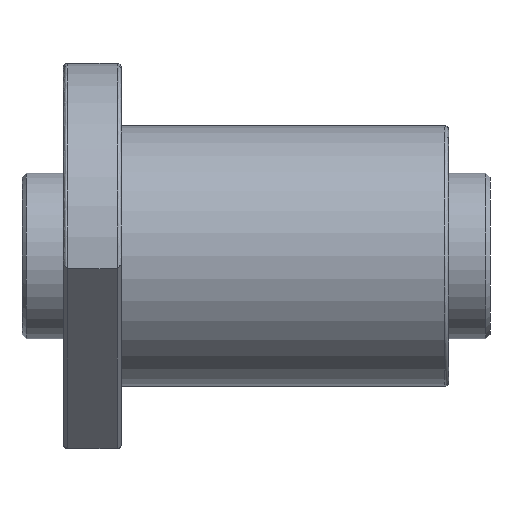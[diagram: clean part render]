
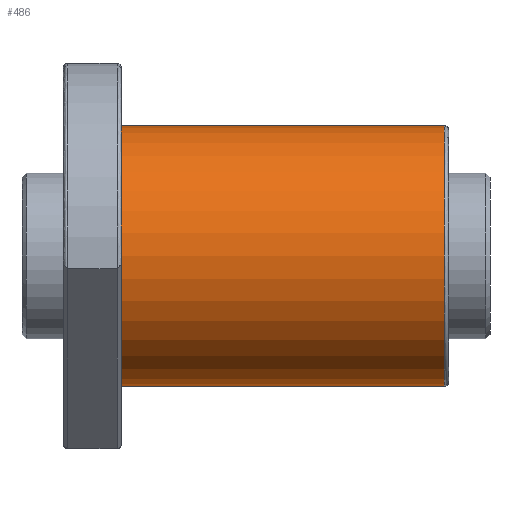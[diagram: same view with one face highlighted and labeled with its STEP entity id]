
A CAD part, front view. The second image highlights one B-rep face of the part: STEP entity #486.
In plain terms, the highlighted cylindrical face has radius 31.5 mm (diameter 63 mm), a partial arc.
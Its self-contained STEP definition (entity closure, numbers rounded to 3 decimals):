
#67 = DIRECTION ( 'NONE',  ( -1., 0., 0. ) ) ;
#377 = AXIS2_PLACEMENT_3D ( 'NONE', #2147, #4567, #2974 ) ;
#406 = CARTESIAN_POINT ( 'NONE',  ( 93., 0., 31.5 ) ) ;
#486 = ADVANCED_FACE ( 'NONE', ( #2227 ), #4011, .T. ) ;
#510 = CARTESIAN_POINT ( 'NONE',  ( 92., 0., 31.5 ) ) ;
#531 = CARTESIAN_POINT ( 'NONE',  ( 93., 0., -31.5 ) ) ;
#644 = LINE ( 'NONE', #531, #1081 ) ;
#787 = VERTEX_POINT ( 'NONE', #4253 ) ;
#1081 = VECTOR ( 'NONE', #2909, 1000. ) ;
#1314 = VERTEX_POINT ( 'NONE', #510 ) ;
#1739 = CARTESIAN_POINT ( 'NONE',  ( 14., 0., 31.5 ) ) ;
#1937 = CIRCLE ( 'NONE', #2277, 31.5 ) ;
#2147 = CARTESIAN_POINT ( 'NONE',  ( 93., 0., 0. ) ) ;
#2227 = FACE_OUTER_BOUND ( 'NONE', #5256, .T. ) ;
#2234 = VERTEX_POINT ( 'NONE', #4854 ) ;
#2277 = AXIS2_PLACEMENT_3D ( 'NONE', #3616, #3974, #3189 ) ;
#2806 = ORIENTED_EDGE ( 'NONE', *, *, #4436, .T. ) ;
#2909 = DIRECTION ( 'NONE',  ( -1., 0., 0. ) ) ;
#2926 = VECTOR ( 'NONE', #67, 1000. ) ;
#2974 = DIRECTION ( 'NONE',  ( 0., 0., 1. ) ) ;
#3189 = DIRECTION ( 'NONE',  ( 0., 0., 1. ) ) ;
#3237 = DIRECTION ( 'NONE',  ( 1., 0., 0. ) ) ;
#3324 = CIRCLE ( 'NONE', #3879, 31.5 ) ;
#3344 = ORIENTED_EDGE ( 'NONE', *, *, #3620, .T. ) ;
#3390 = ORIENTED_EDGE ( 'NONE', *, *, #4469, .T. ) ;
#3616 = CARTESIAN_POINT ( 'NONE',  ( 92., 0., 0. ) ) ;
#3620 = EDGE_CURVE ( 'NONE', #787, #1314, #1937, .T. ) ;
#3879 = AXIS2_PLACEMENT_3D ( 'NONE', #4109, #3237, #5282 ) ;
#3974 = DIRECTION ( 'NONE',  ( -1., 0., 0. ) ) ;
#4011 = CYLINDRICAL_SURFACE ( 'NONE', #377, 31.5 ) ;
#4109 = CARTESIAN_POINT ( 'NONE',  ( 14., 0., 0. ) ) ;
#4140 = LINE ( 'NONE', #406, #2926 ) ;
#4147 = VERTEX_POINT ( 'NONE', #1739 ) ;
#4253 = CARTESIAN_POINT ( 'NONE',  ( 92., 0., -31.5 ) ) ;
#4436 = EDGE_CURVE ( 'NONE', #1314, #4147, #4140, .T. ) ;
#4469 = EDGE_CURVE ( 'NONE', #4147, #2234, #3324, .T. ) ;
#4567 = DIRECTION ( 'NONE',  ( -1., 0., 0. ) ) ;
#4854 = CARTESIAN_POINT ( 'NONE',  ( 14., 0., -31.5 ) ) ;
#5209 = EDGE_CURVE ( 'NONE', #787, #2234, #644, .T. ) ;
#5240 = ORIENTED_EDGE ( 'NONE', *, *, #5209, .F. ) ;
#5256 = EDGE_LOOP ( 'NONE', ( #5240, #3344, #2806, #3390 ) ) ;
#5282 = DIRECTION ( 'NONE',  ( 0., 0., 1. ) ) ;
